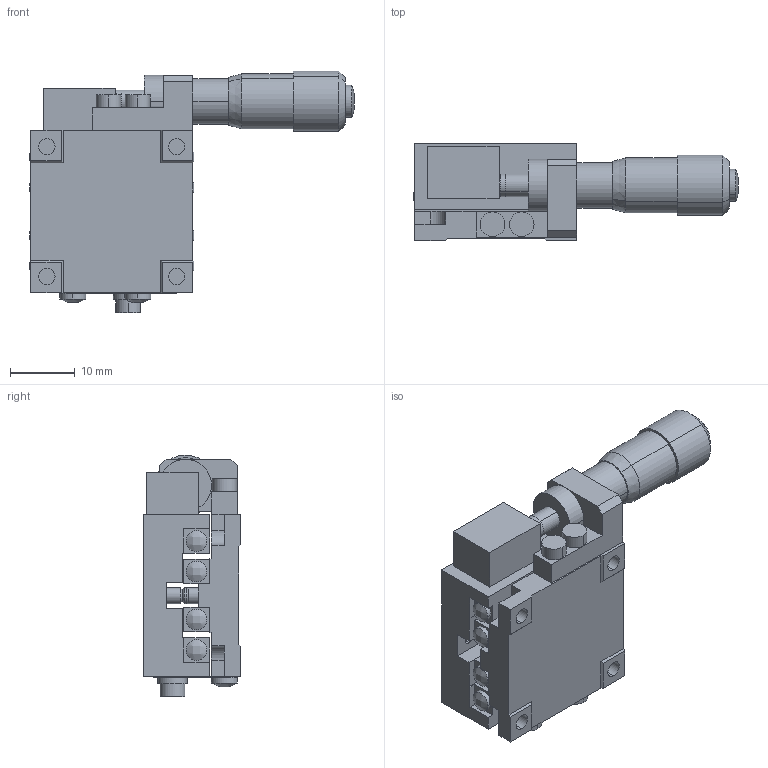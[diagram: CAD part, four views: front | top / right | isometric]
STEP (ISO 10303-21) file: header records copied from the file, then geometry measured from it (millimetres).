
FILE_DESCRIPTION (( 'STEP AP203' ), '1' );
FILE_NAME ('Imported.STEP', '2009-03-20T03:46:49', ( 'user' ), ( '' ), 'SwSTEP 2.0', 'SolidWorks 2007', '' );
FILE_SCHEMA (( 'CONFIG_CONTROL_DESIGN' ));
Length unit declared in the file: millimetre
Products named in the file (1): Imported
Bounding box: 50.04 x 15 x 37.23 mm (x, y, z)
Volume: 10880.7 mm3; surface area: 6584.8 mm2
Topology: 1 solids, 2 shells, 257 faces, 639 edges, 410 vertices
Faces by surface type: plane 129, cylinder 90, cone 27, bspline 11
Entity records: 7920 total; most frequent: CARTESIAN_POINT 1553, DIRECTION 1336, ORIENTED_EDGE 1278, EDGE_CURVE 639, AXIS2_PLACEMENT_3D 459, VECTOR 418, LINE 418, VERTEX_POINT 410
